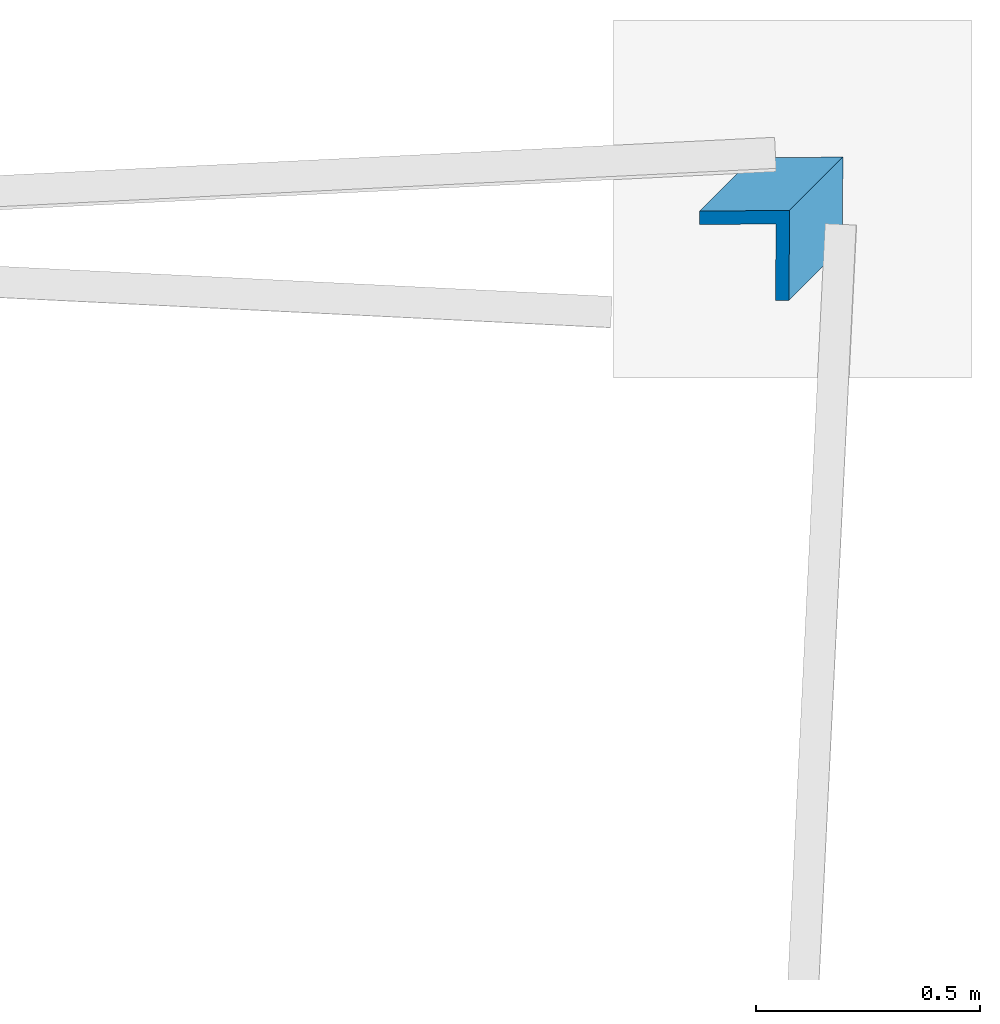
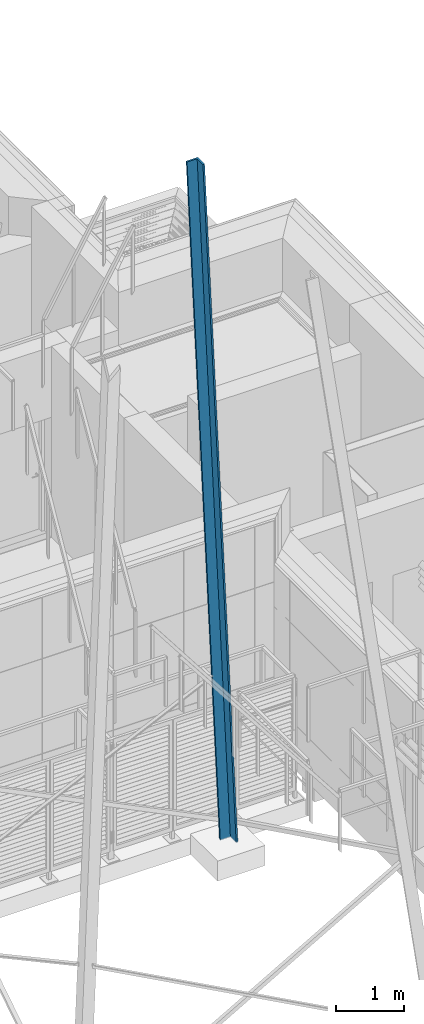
# One storey, part 3 of 418: 1 column.
"""IFC2X3 building model written with IfcOpenShell, lengths in millimetres."""

import ifcopenshell
import ifcopenshell.guid

model = None  # the IFC model being written
_history = None  # IfcOwnerHistory: only IFC2X3 demands one
_inside = {}  # id of a spatial element -> (the spatial element, [elements in it])
_under = {}  # id of a project, library or spatial element -> (it, [spatial elements below it])
_declared = {}  # id of a project -> (the project, [libraries it declares])
_typed = {}  # id of a type object -> (the type object, [elements of that type])
_made_of = {}  # id of a material, layer set ... -> (it, [elements and type objects made of it])


def new_model(schema):
    """Start an empty IFC model of exactly this schema.

    Asked for "IFC4X3", IfcOpenShell would pick the latest addendum, in which some entities
    have other attributes; the version numbers below select the first issue.
    IFC2X3 requires an IfcOwnerHistory on every rooted entity: one is made here for all.
    """
    global model, _history
    if schema == "IFC4X3":
        model = ifcopenshell.file(schema_version=(4, 3, 0, 0))
    else:
        model = ifcopenshell.file(schema=schema)
    _inside.clear()
    _under.clear()
    _declared.clear()
    _typed.clear()
    _made_of.clear()
    _history = None
    if model.schema == "IFC2X3":
        org = make("IfcOrganization", Name="unknown")
        user = make(
            "IfcPersonAndOrganization",
            ThePerson=make("IfcPerson", FamilyName="unknown"),
            TheOrganization=org,
        )
        app = make(
            "IfcApplication",
            ApplicationDeveloper=org,
            Version="unknown",
            ApplicationFullName="unknown",
            ApplicationIdentifier="unknown",
        )
        _history = make(
            "IfcOwnerHistory",
            OwningUser=user,
            OwningApplication=app,
            ChangeAction="ADDED",
            CreationDate=0,
        )
    return model


def make(cls, **values):
    """One entity of the class cls with the attributes given. An attribute that is None is left unset."""
    return model.create_entity(
        cls, **{name: value for name, value in values.items() if value is not None}
    )


def entity(cls, *values):
    """Any entity or typed value of the class cls, its attributes in the order of the schema. None: left unset."""
    e = model.create_entity(cls)
    for i, value in enumerate(values):
        if value is not None:
            e[i] = value
    return e


def rooted(cls, **values):
    """An entity with a GlobalId (a new one), such as an element, a storey or a relation."""
    return make(cls, GlobalId=ifcopenshell.guid.new(), OwnerHistory=_history, **values)


def si_unit(unit_type, name, prefix=None):
    """IfcSIUnit, for example si_unit("LENGTHUNIT", "METRE", prefix="MILLI")."""
    return make("IfcSIUnit", UnitType=unit_type, Prefix=prefix, Name=name)


def converted_unit(unit_type, name, factor, base, dimensions=None, offset=None):
    """IfcConversionBasedUnit, such as the inch: factor (a typed value) times the base unit."""
    return make(
        "IfcConversionBasedUnit"
        if offset is None
        else "IfcConversionBasedUnitWithOffset",
        ConversionOffset=offset,
        Dimensions=None
        if dimensions is None
        else entity("IfcDimensionalExponents", *dimensions),
        UnitType=unit_type,
        Name=name,
        ConversionFactor=make(
            "IfcMeasureWithUnit", ValueComponent=factor, UnitComponent=base
        ),
    )


def derived_unit(unit_type, elements):
    """IfcDerivedUnit: a product of units, each with its exponent."""
    return make(
        "IfcDerivedUnit",
        Elements=[
            make("IfcDerivedUnitElement", Unit=unit, Exponent=power)
            for unit, power in elements
        ],
        UnitType=unit_type,
    )


def money_unit(currency):
    """IfcMonetaryUnit."""
    return make("IfcMonetaryUnit", Currency=currency)


def assignment(units):
    """IfcUnitAssignment: the units of a project."""
    return None if units is None else make("IfcUnitAssignment", Units=units)


def point(xyz):
    """IfcCartesianPoint."""
    return None if xyz is None else make("IfcCartesianPoint", Coordinates=xyz)


def direction(xyz):
    """IfcDirection."""
    return None if xyz is None else make("IfcDirection", DirectionRatios=xyz)


def frame(location, z_axis=None, x_axis=None):
    """IfcAxis2Placement3D, a coordinate frame: its origin and axes. An axis left out is left unset."""
    return make(
        "IfcAxis2Placement3D",
        Location=point(location),
        Axis=direction(z_axis),
        RefDirection=direction(x_axis),
    )


def origin_with_axes():
    """The frame at (0, 0, 0) with the z axis (0, 0, 1) and the x axis (1, 0, 0) written out."""
    return frame((0.0, 0.0, 0.0), z_axis=(0.0, 0.0, 1.0), x_axis=(1.0, 0.0, 0.0))


def place(relative_to, where):
    """IfcLocalPlacement: puts the frame where relative to a parent placement (None: the world)."""
    return make(
        "IfcLocalPlacement", PlacementRelTo=relative_to, RelativePlacement=where
    )


def context(
    kind, dimensions, precision=None, world=None, true_north=None, identifier=None
):
    """IfcGeometricRepresentationContext, for example the 3D "Model" context."""
    return make(
        "IfcGeometricRepresentationContext",
        ContextIdentifier=identifier,
        ContextType=kind,
        CoordinateSpaceDimension=dimensions,
        Precision=precision,
        WorldCoordinateSystem=world,
        TrueNorth=true_north,
    )


def subcontext(parent, identifier, kind, view, scale=None):
    """IfcGeometricRepresentationSubContext, for example "Body" below "Model"."""
    return make(
        "IfcGeometricRepresentationSubContext",
        ContextIdentifier=identifier,
        ContextType=kind,
        ParentContext=parent,
        TargetScale=scale,
        TargetView=view,
    )


def project(units=None, contexts=None):
    """IfcProject with its units and contexts."""
    return rooted(
        "IfcProject",
        Name="project",
        RepresentationContexts=contexts,
        UnitsInContext=assignment(units),
    )


def spatial(cls, under=None, at=None, **own):
    """A site, building, storey or space (cls), placed at a placement, below another one or the project."""
    s = rooted(cls, ObjectPlacement=at, **own)
    if under is not None:
        _under.setdefault(under.id(), (under, []))[1].append(s)
    return s


def polyline(points):
    """IfcPolyline through the points."""
    return make("IfcPolyline", Points=[point(p) for p in points])


def outline(outer, holes=None, kind="AREA"):
    """IfcArbitraryClosedProfileDef: a profile drawn as a closed curve; with holes, ...WithVoids."""
    if holes is None:
        return make("IfcArbitraryClosedProfileDef", ProfileType=kind, OuterCurve=outer)
    return make(
        "IfcArbitraryProfileDefWithVoids",
        ProfileType=kind,
        OuterCurve=outer,
        InnerCurves=holes,
    )


def extrude(swept, where, along, depth):
    """IfcExtrudedAreaSolid: the profile swept, set in the frame where, extruded along a direction by depth."""
    return make(
        "IfcExtrudedAreaSolid",
        SweptArea=swept,
        Position=where,
        ExtrudedDirection=direction(along),
        Depth=depth,
    )


def clip(a, b, op="DIFFERENCE"):
    """IfcBooleanClippingResult: the solid a cut by the half space b."""
    return make(
        "IfcBooleanClippingResult", Operator=op, FirstOperand=a, SecondOperand=b
    )


def halfspace(plane, agree):
    """IfcHalfSpaceSolid: all space on one side of the plane z = 0 of the frame plane."""
    return make(
        "IfcHalfSpaceSolid",
        BaseSurface=make("IfcPlane", Position=plane),
        AgreementFlag=agree,
    )


def shape(context_of_items, identifier, shape_type, items):
    """IfcShapeRepresentation: the items that make up one representation, for example the "Body"."""
    return make(
        "IfcShapeRepresentation",
        ContextOfItems=context_of_items,
        RepresentationIdentifier=identifier,
        RepresentationType=shape_type,
        Items=items,
    )


def material(Name=None, Category=None):
    """IfcMaterial."""
    return make("IfcMaterial", Name=Name, Category=Category)


def made_of(thing, what):
    """Note that an element or type object is made of a material, layer set ...; save() writes the relation."""
    if what is not None:
        _made_of.setdefault(what.id(), (what, []))[1].append(thing)
    return thing


def type_object(cls, material=None, **own):
    """A type object (cls), such as IfcWallType, which elements share."""
    return made_of(rooted(cls, **own), material)


def element(
    cls,
    number,
    at=None,
    inside=None,
    cuts=None,
    type_object=None,
    material=None,
    context=None,
    identifier="Body",
    shape_type=None,
    held_by="IfcProductDefinitionShape",
    body=None,
    shapes=None,
    **own,
):
    """One element of the class cls, such as IfcWall. Its Tag is "e" and its number.

    at: its placement. inside: the storey or other place that contains it. cuts: it is an
    opening in that element (IfcRelVoidsElement). A single representation is given by context,
    identifier, shape_type and body (its items); several are given by shapes. held_by: the class
    of the entity that holds the representations. save() writes the other relations.
    """
    e = rooted(cls, Tag="e%d" % number, ObjectPlacement=at, **own)
    if body is not None:
        shapes = [shape(context, identifier, shape_type, body)]
    if shapes is not None:
        e.Representation = make(held_by, Representations=shapes)
    if inside is not None:
        _inside.setdefault(inside.id(), (inside, []))[1].append(e)
    if cuts is not None:
        rooted(
            "IfcRelVoidsElement", RelatingBuildingElement=cuts, RelatedOpeningElement=e
        )
    if type_object is not None:
        _typed.setdefault(type_object.id(), (type_object, []))[1].append(e)
    return made_of(e, material)


def aggregate(whole, parts):
    """IfcRelAggregates: a whole, such as a stair, and the parts it consists of."""
    return rooted("IfcRelAggregates", RelatingObject=whole, RelatedObjects=parts)


def save(model, path):
    """Write the relations noted so far, then the file.

    IfcRelAggregates (storeys below a building ...), IfcRelContainedInSpatialStructure (elements
    in a storey), IfcRelDefinesByType, IfcRelAssociatesMaterial and IfcRelDeclares: one each for
    every whole, place, type object, material and project.
    """
    for whole, parts in _under.values():
        aggregate(whole, parts)
    for where, things in _inside.values():
        rooted(
            "IfcRelContainedInSpatialStructure",
            RelatedElements=things,
            RelatingStructure=where,
        )
    for kind, things in _typed.values():
        rooted("IfcRelDefinesByType", RelatedObjects=things, RelatingType=kind)
    for what, things in _made_of.values():
        rooted("IfcRelAssociatesMaterial", RelatedObjects=things, RelatingMaterial=what)
    for by, libraries in _declared.values():
        rooted("IfcRelDeclares", RelatingContext=by, RelatedDefinitions=libraries)
    model.write(path)


model = new_model("IFC2X3")

# Units and contexts
model_context = context("Model", 3, precision=0.01, world=origin_with_axes(), true_north=direction((0.0, 1.0)))
body_context = subcontext(model_context, "Body", "Model", "MODEL_VIEW")
ifc_project = project(units=[si_unit("LENGTHUNIT", "METRE", prefix="MILLI"), si_unit("AREAUNIT", "SQUARE_METRE"), si_unit("VOLUMEUNIT", "CUBIC_METRE"), converted_unit("PLANEANGLEUNIT", "DEGREE", entity("IfcPlaneAngleMeasure", 0.0174532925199), si_unit("PLANEANGLEUNIT", "RADIAN"), dimensions=[0, 0, 0, 0, 0, 0, 0]), si_unit("SOLIDANGLEUNIT", "STERADIAN"), money_unit("EUR"), converted_unit("TIMEUNIT", "Year", entity("IfcTimeMeasure", 31556926.0), si_unit("TIMEUNIT", "SECOND"), dimensions=[0, 0, 1, 0, 0, 0, 0]), si_unit("MASSUNIT", "GRAM", prefix="KILO"), si_unit("THERMODYNAMICTEMPERATUREUNIT", "DEGREE_CELSIUS"), si_unit("LUMINOUSINTENSITYUNIT", "LUMEN"), si_unit("ENERGYUNIT", "JOULE", prefix="MEGA"), derived_unit("THERMALCONDUCTANCEUNIT", [(si_unit("POWERUNIT", "WATT"), 1), (si_unit("LENGTHUNIT", "METRE"), -1), (si_unit("THERMODYNAMICTEMPERATUREUNIT", "KELVIN"), -1)]), derived_unit("SPECIFICHEATCAPACITYUNIT", [(si_unit("ENERGYUNIT", "JOULE"), 1), (si_unit("MASSUNIT", "GRAM", prefix="KILO"), -1), (si_unit("THERMODYNAMICTEMPERATUREUNIT", "KELVIN"), -1)]), derived_unit("MASSDENSITYUNIT", [(si_unit("MASSUNIT", "GRAM", prefix="KILO"), 1), (si_unit("VOLUMEUNIT", "CUBIC_METRE"), -1)])], contexts=[model_context])

# Site, building, storey
site_placement = place(None, origin_with_axes())
site = spatial("IfcSite", under=ifc_project, at=site_placement, Name="Paldiski mnt 245/1, Tallinn, Harjumaa", CompositionType="COMPLEX")
building_placement = place(site_placement, origin_with_axes())
building = spatial("IfcBuilding", under=site, at=building_placement, Name="RKAS Hoone üldnimetus (kasutust iseloomustav) -> IFC Project Manager -> SOLIBRI", CompositionType="ELEMENT")
storey_placement = place(building_placement, origin_with_axes())
storey = spatial("IfcBuildingStorey", under=building, at=storey_placement, Name="Esimene korrus", CompositionType="ELEMENT", Elevation=0.0)

# Column
ifc_material = material(Name="SV-03_Plaat - Põrand")
column_type = type_object("IfcColumnType", Name="TORN-KONST 283 x 163", PredefinedType="COLUMN")
column_placement = place(storey_placement, frame((-49926.29898, -2082.77681025, 0.0), z_axis=(0.0, 0.0, 1.0), x_axis=(-0.707106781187, 0.707106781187, 0.0)))
element("IfcColumn", 1, at=column_placement, inside=storey, type_object=column_type, material=ifc_material, Name="POST", ObjectType="COLUMN", context=body_context, shape_type="Clipping", body=[
    clip(clip(extrude(outline(polyline([(0.0, 0.0), (141.421356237, 141.421356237), (120.208152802, 162.634559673), (0.0, 42.4264068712), (-120.208152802, 162.634559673), (-141.421356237, 141.421356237), (0.0, 0.0)])), frame((0.0, -5.53226310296, -39.364097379), z_axis=(0.0, -0.13917310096, -0.990268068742), x_axis=(-1.0, 0.0, 0.0)), (0.0, 0.0, -1.0), 13623.1234823), halfspace(frame((0.0, 0.0, 0.0), z_axis=(0.0, 0.0, 1.0), x_axis=(0.0, -1.0, 0.0)), True)), halfspace(frame((0.0, 0.0, 13411.8159863), z_axis=(0.0, 0.0, -1.0), x_axis=(0.0, 1.0, 0.0)), True)),
])

save(model, "model.ifc")
